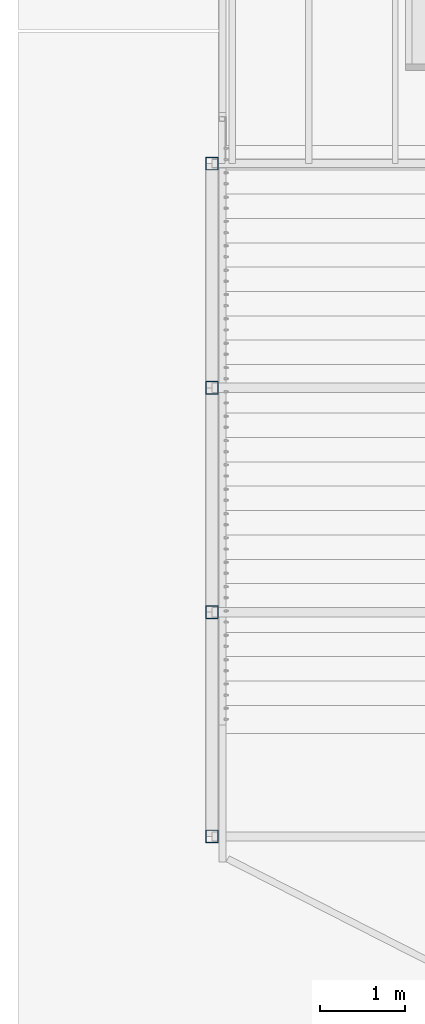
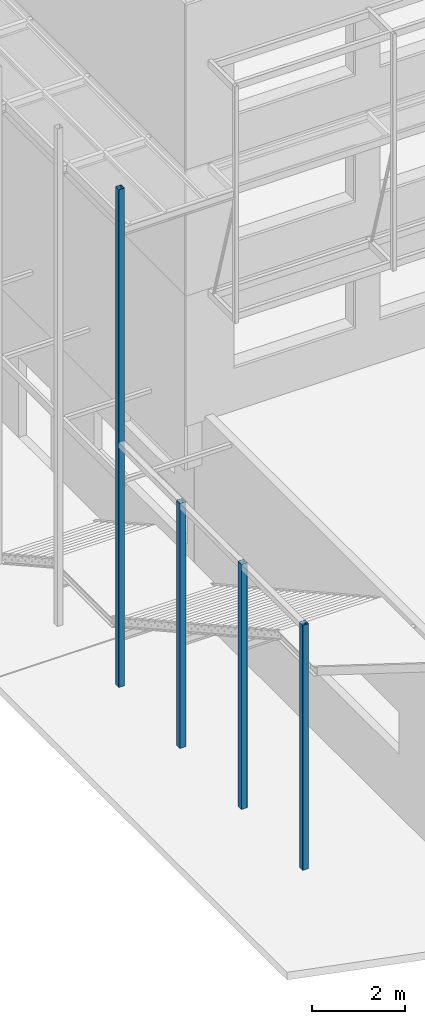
# One storey, part 1 of 78: 4 columns, 4 elements without a shape of their own.
"""IFC2X3 building model written with IfcOpenShell, lengths in millimetres."""

from ifc_helpers import new_model, si_unit, frame, origin_with_axes, origin_2d_with_axis, place, context, subcontext, project, spatial, hollow_rectangle, extrude, material, type_object, element, aggregate, save


model = new_model("IFC2X3")

# Units and contexts
model_context = context("Model", 3, precision=1e-05, world=origin_with_axes())
body_context = subcontext(model_context, "Body", "Model", "MODEL_VIEW")
ifc_project = project(units=[si_unit("LENGTHUNIT", "METRE", prefix="MILLI"), si_unit("AREAUNIT", "SQUARE_METRE"), si_unit("VOLUMEUNIT", "CUBIC_METRE"), si_unit("MASSUNIT", "GRAM", prefix="KILO"), si_unit("TIMEUNIT", "SECOND"), si_unit("PLANEANGLEUNIT", "RADIAN"), si_unit("SOLIDANGLEUNIT", "STERADIAN"), si_unit("THERMODYNAMICTEMPERATUREUNIT", "DEGREE_CELSIUS"), si_unit("LUMINOUSINTENSITYUNIT", "LUMEN")], contexts=[model_context])

# Site, building, storey
site_placement = place(None, origin_with_axes())
site = spatial("IfcSite", under=ifc_project, at=site_placement, Name="Site", CompositionType="ELEMENT")
building_placement = place(site_placement, origin_with_axes())
building = spatial("IfcBuilding", under=site, at=building_placement, Name="Undefined", CompositionType="ELEMENT")
storey_placement = place(building_placement, origin_with_axes())
storey = spatial("IfcBuildingStorey", under=building, at=storey_placement, Name="Undefined", CompositionType="ELEMENT", Elevation=0.0)

# Assembly, column
assembly_1_placement = place(storey_placement, origin_with_axes())
assembly_1 = element("IfcElementAssembly", 1, at=assembly_1_placement, inside=storey, Name="POTEAU", AssemblyPlace="NOTDEFINED", PredefinedType="RIGID_FRAME")
ifc_material = material(Name="STEEL/S275JR")
column_type = type_object("IfcColumnType", Name="TUBE-C-150*150*5", PredefinedType="NOTDEFINED")
column_1_placement = place(assembly_1_placement, frame((-33338.43, -16532.0, 148000.04), z_axis=(0.0, 0.0, 1.0), x_axis=(0.0, 1.0, 0.0)))
column_1 = element("IfcColumn", 2, at=column_1_placement, type_object=column_type, material=ifc_material, Name="POTEAU", ObjectType="TUBE-C-150*150*5", context=body_context, shape_type="SweptSolid", body=[
    extrude(hollow_rectangle(XDim=150.0, YDim=150.0, WallThickness=5.0, InnerFilletRadius=5.0, OuterFilletRadius=10.0, at=origin_2d_with_axis()), frame((0.0, 0.0, 6400.0), z_axis=(0.0, 0.0, -1.0), x_axis=(0.0, 1.0, 0.0)), (0.0, 0.0, 1.0), 6400.0),
])
aggregate(assembly_1, [column_1])

assembly_2_placement = place(storey_placement, origin_with_axes())
assembly_2 = element("IfcElementAssembly", 3, at=assembly_2_placement, inside=storey, Name="POTEAU", AssemblyPlace="NOTDEFINED", PredefinedType="RIGID_FRAME")
column_2_placement = place(assembly_2_placement, frame((-33338.43, -13906.0, 148000.04), z_axis=(0.0, 0.0, 1.0), x_axis=(0.0, 1.0, 0.0)))
column_2 = element("IfcColumn", 4, at=column_2_placement, type_object=column_type, material=ifc_material, Name="POTEAU", ObjectType="TUBE-C-150*150*5", context=body_context, shape_type="SweptSolid", body=[
    extrude(hollow_rectangle(XDim=150.0, YDim=150.0, WallThickness=5.0, InnerFilletRadius=5.0, OuterFilletRadius=10.0, at=origin_2d_with_axis()), frame((0.0, 0.0, 6400.0), z_axis=(0.0, 0.0, -1.0), x_axis=(0.0, 1.0, 0.0)), (0.0, 0.0, 1.0), 6400.0),
])
aggregate(assembly_2, [column_2])

assembly_3_placement = place(storey_placement, origin_with_axes())
assembly_3 = element("IfcElementAssembly", 5, at=assembly_3_placement, inside=storey, Name="POTEAU", AssemblyPlace="NOTDEFINED", PredefinedType="RIGID_FRAME")
column_3_placement = place(assembly_3_placement, frame((-33338.43, -11280.0, 148000.04), z_axis=(0.0, 0.0, 1.0), x_axis=(0.0, 1.0, 0.0)))
column_3 = element("IfcColumn", 6, at=column_3_placement, type_object=column_type, material=ifc_material, Name="POTEAU", ObjectType="TUBE-C-150*150*5", context=body_context, shape_type="SweptSolid", body=[
    extrude(hollow_rectangle(XDim=150.0, YDim=150.0, WallThickness=5.0, InnerFilletRadius=5.0, OuterFilletRadius=10.0, at=origin_2d_with_axis()), frame((0.0, 0.0, 6400.0), z_axis=(0.0, 0.0, -1.0), x_axis=(0.0, 1.0, 0.0)), (0.0, 0.0, 1.0), 6400.0),
])
aggregate(assembly_3, [column_3])

assembly_4_placement = place(storey_placement, origin_with_axes())
assembly_4 = element("IfcElementAssembly", 7, at=assembly_4_placement, inside=storey, Name="POTEAU", AssemblyPlace="NOTDEFINED", PredefinedType="RIGID_FRAME")
column_4_placement = place(assembly_4_placement, frame((-33338.43, -8654.0, 148000.04), z_axis=(0.0, 0.0, 1.0), x_axis=(0.0, 1.0, 0.0)))
column_4 = element("IfcColumn", 8, at=column_4_placement, type_object=column_type, material=ifc_material, Name="POTEAU", ObjectType="TUBE-C-150*150*5", context=body_context, shape_type="SweptSolid", body=[
    extrude(hollow_rectangle(XDim=150.0, YDim=150.0, WallThickness=5.0, InnerFilletRadius=5.0, OuterFilletRadius=10.0, at=origin_2d_with_axis()), frame((0.0, 0.0, 13000.0), z_axis=(0.0, 0.0, -1.0), x_axis=(0.0, 1.0, 0.0)), (0.0, 0.0, 1.0), 13000.0),
])
aggregate(assembly_4, [column_4])

save(model, "model.ifc")
